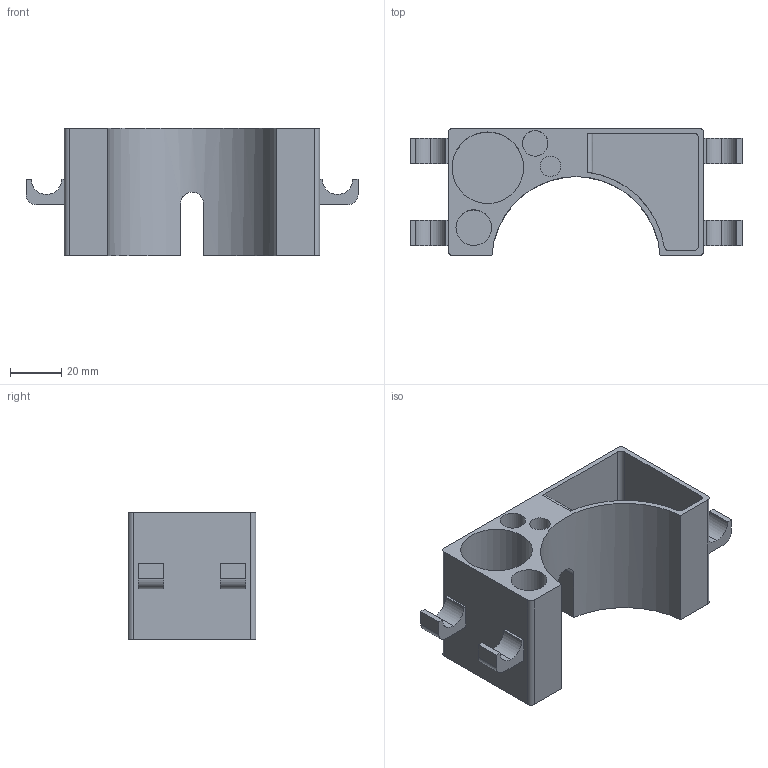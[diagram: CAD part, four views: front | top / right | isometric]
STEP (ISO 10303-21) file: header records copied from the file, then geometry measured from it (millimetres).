
FILE_DESCRIPTION(('HOOPS Exchange Step'),'2;1');
FILE_NAME('/private/var/mobile/Containers/Data/Application/0353A002-4559-494B-B138-04617355CC42/tmp/export/temp_export','2020-10-27T09:00:30-07:00',('mobile'),('Shapr3D Limited'),'HOOPS Exchange 2020.2','Shapr3D','Authorized');
FILE_SCHEMA( ('AP203_CONFIGURATION_CONTROLLED_3D_DESIGN_OF_MECHANICAL_PARTS_AND_ASSEMBLIES_MIM_LF') );
Length unit declared in the file: millimetre
Products named in the file (1): /var/mobile/Containers/Data/Application/0353A002-4559-494B-B138-04617355CC42/Documents/A1116CEC-56A9-45A2-AC15-8E060DF05B1F.tmp
Bounding box: 130 x 50 x 50 mm (x, y, z)
Volume: 68307.6 mm3; surface area: 42014.1 mm2
Topology: 1 solids, 1 shells, 70 faces, 177 edges, 118 vertices
Faces by surface type: plane 43, cylinder 27
Full cylindrical faces by diameter (mm): 8 x1, 10 x1, 14 x1, 28 x1
Entity records: 2230 total; most frequent: CARTESIAN_POINT 462, DIRECTION 370, ORIENTED_EDGE 354, EDGE_CURVE 177, AXIS2_PLACEMENT_3D 124, VECTOR 122, LINE 122, VERTEX_POINT 118
